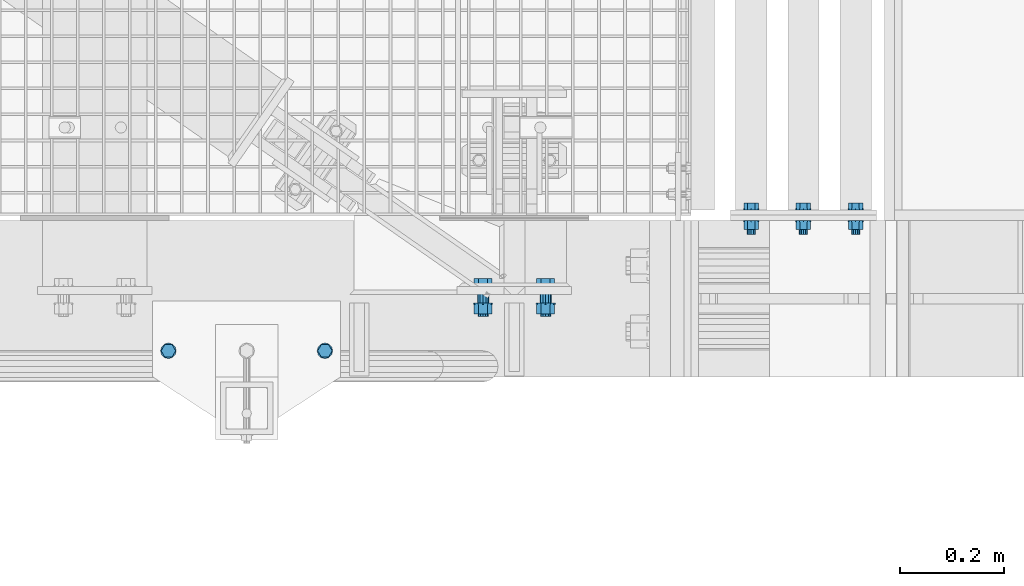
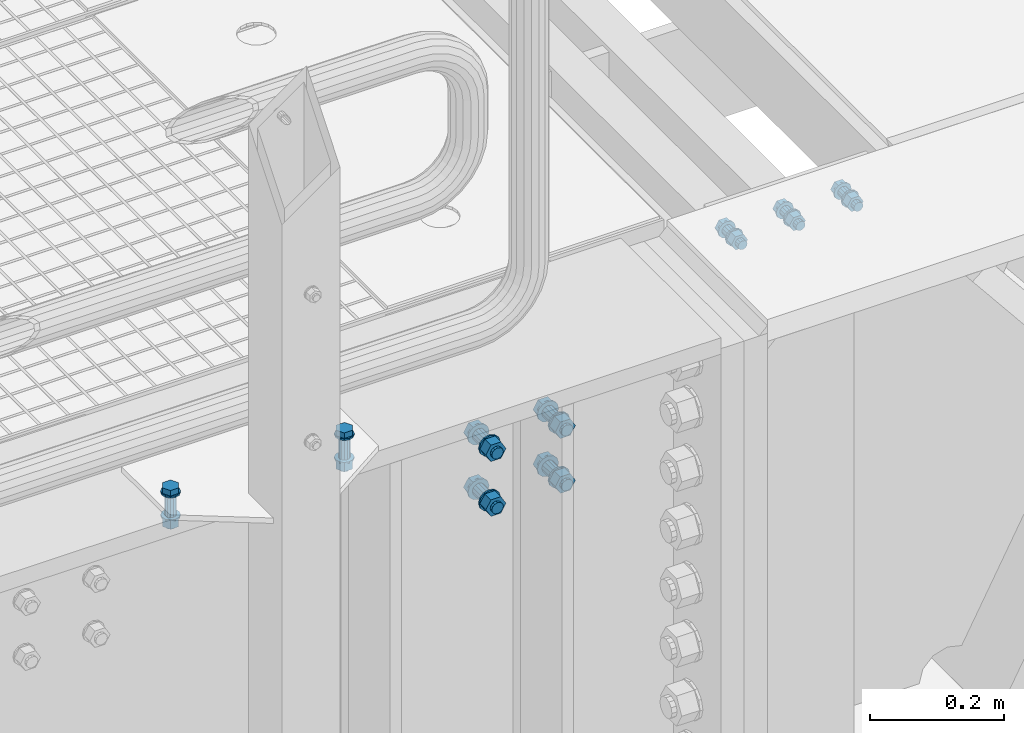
# One storey, part 51 of 1530: 3 mechanical fasteners.
"""IFC2X3 building model written with IfcOpenShell, lengths in millimetres."""

from ifc_helpers import new_model, si_unit, frame, origin_with_axes, place, context, subcontext, project, spatial, faceted_brep, source, transform, mapped, material, type_object, element, save


model = new_model("IFC2X3")

# Units and contexts
model_context = context("Model", 3, precision=1e-05, world=origin_with_axes())
body_context = subcontext(model_context, "Body", "Model", "MODEL_VIEW")
ifc_project = project(units=[si_unit("LENGTHUNIT", "METRE", prefix="MILLI"), si_unit("AREAUNIT", "SQUARE_METRE"), si_unit("VOLUMEUNIT", "CUBIC_METRE"), si_unit("MASSUNIT", "GRAM", prefix="KILO"), si_unit("TIMEUNIT", "SECOND"), si_unit("PLANEANGLEUNIT", "RADIAN"), si_unit("SOLIDANGLEUNIT", "STERADIAN"), si_unit("THERMODYNAMICTEMPERATUREUNIT", "DEGREE_CELSIUS"), si_unit("LUMINOUSINTENSITYUNIT", "LUMEN")], contexts=[model_context])

# Site, building, storey
site_placement = place(None, origin_with_axes())
site = spatial("IfcSite", under=ifc_project, at=site_placement, Name="Brattvåg", CompositionType="ELEMENT")
building_placement = place(site_placement, origin_with_axes())
building = spatial("IfcBuilding", under=site, at=building_placement, Name="Undefined", CompositionType="ELEMENT")
storey_placement = place(building_placement, origin_with_axes())
storey = spatial("IfcBuildingStorey", under=building, at=storey_placement, Name="Undefined", CompositionType="ELEMENT", Elevation=0.0)

# Mechanical fasteners
ifc_material = material(Name="8")
mechanical_fastener_type = type_object("IfcMechanicalFastenerType", Name="Bolt assembly")
shared_shape_1 = source(origin_with_axes(), body_context, "Body", "Brep", [
    faceted_brep([(13.856406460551, -13.0, 0.0), (6.92820323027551, -13.0, 12.0), (-6.92820323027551, -13.0, 12.0), (-13.856406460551, -13.0, 1.69692038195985e-15), (-6.92820323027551, -13.0, -12.0), (6.9282032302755, -13.0, -12.0), (6.9282032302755, -3.0, -12.0), (-6.92820323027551, -3.0, -12.0), (-13.856406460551, -3.0, 1.69692038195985e-15), (-6.92820323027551, -3.0, 12.0), (6.92820323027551, -3.0, 12.0), (13.856406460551, -3.0, 0.0), (8.0, -3.0, 0.0), (6.92820323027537, -3.0, 4.00000000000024), (3.99999999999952, -3.0, 6.92820323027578), (-8.29068785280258e-13, -3.0, 8.0), (-4.00000000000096, -3.0, 6.92820323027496), (-6.9282032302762, -3.0, 3.99999999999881), (-8.0, -3.0, -1.65813757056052e-12), (-6.92820323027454, -3.0, -4.00000000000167), (-3.99999999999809, -3.0, -6.92820323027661), (2.47832457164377e-12, -3.0, -8.0), (4.00000000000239, -3.0, -6.92820323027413), (6.92820323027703, -3.0, -3.99999999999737), (6.92820323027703, 47.0, -3.99999999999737), (4.00000000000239, 47.0, -6.92820323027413), (2.47832457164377e-12, 47.0, -8.0), (-3.99999999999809, 47.0, -6.92820323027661), (-6.92820323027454, 47.0, -4.00000000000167), (-8.0, 47.0, -1.65813757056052e-12), (-6.9282032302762, 47.0, 3.99999999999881), (-4.00000000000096, 47.0, 6.92820323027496), (-8.29068785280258e-13, 47.0, 8.0), (3.99999999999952, 47.0, 6.92820323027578), (6.92820323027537, 47.0, 4.00000000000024), (8.0, 47.0, 0.0), (15.0, -3.0, 0.0), (12.9903810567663, -3.0, 7.50000000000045), (7.4999999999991, -3.0, 12.9903810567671), (-1.55450397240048e-12, -3.0, 15.0), (-7.50000000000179, -3.0, 12.9903810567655), (-12.9903810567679, -3.0, 7.49999999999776), (-15.0, -3.0, -3.10900794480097e-12), (-12.9903810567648, -3.0, -7.50000000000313), (-7.49999999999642, -3.0, -12.9903810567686), (4.64685857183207e-12, -3.0, -15.0), (7.50000000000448, -3.0, -12.990381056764), (12.9903810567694, -3.0, -7.49999999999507), (12.9903810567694, 0.0, -7.49999999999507), (7.50000000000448, 0.0, -12.990381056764), (0.0, 0.0, -15.0), (-7.49999999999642, 0.0, -12.9903810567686), (-12.9903810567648, 0.0, -7.50000000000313), (-15.0, 0.0, -3.10900794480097e-12), (-12.9903810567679, 0.0, 7.49999999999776), (-7.50000000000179, 0.0, 12.9903810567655), (0.0, 0.0, 15.0), (7.4999999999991, 0.0, 12.9903810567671), (12.9903810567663, 0.0, 7.50000000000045), (15.0, 0.0, 0.0), (15.0, 20.0002288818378, 0.0), (12.9903810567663, 20.0002288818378, 7.50000000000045), (7.4999999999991, 20.0002288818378, 12.9903810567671), (-1.55450397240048e-12, 20.0002288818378, 15.0), (-7.50000000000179, 20.0002288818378, 12.9903810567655), (-12.9903810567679, 20.0002288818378, 7.49999999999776), (-15.0, 20.0002288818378, -3.10900794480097e-12), (-12.9903810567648, 20.0002288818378, -7.50000000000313), (-7.49999999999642, 20.0002288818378, -12.9903810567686), (4.64685857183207e-12, 20.0002288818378, -15.0), (7.50000000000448, 20.0002288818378, -12.990381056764), (12.9903810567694, 20.0002288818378, -7.49999999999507), (12.9903810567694, 23.0002288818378, -7.49999999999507), (7.50000000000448, 23.0002288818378, -12.990381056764), (4.64685857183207e-12, 23.0002288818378, -15.0), (-7.49999999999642, 23.0002288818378, -12.9903810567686), (-12.9903810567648, 23.0002288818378, -7.50000000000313), (-15.0, 23.0002288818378, -3.10900794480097e-12), (-12.9903810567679, 23.0002288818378, 7.49999999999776), (-7.50000000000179, 23.0002288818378, 12.9903810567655), (-1.55450397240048e-12, 23.0002288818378, 15.0), (7.4999999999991, 23.0002288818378, 12.9903810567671), (12.9903810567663, 23.0002288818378, 7.50000000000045), (15.0, 23.0002288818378, 0.0), (13.856406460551, 23.0002288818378, 0.0), (6.92820323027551, 23.0002288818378, 12.0), (-6.92820323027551, 23.0002288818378, 12.0), (-13.856406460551, 23.0002288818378, 1.69692038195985e-15), (-6.92820323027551, 23.0002288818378, -12.0), (6.9282032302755, 23.0002288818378, -12.0), (6.9282032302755, 37.8002290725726, -12.0), (-6.92820323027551, 37.8002290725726, -12.0), (-13.856406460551, 37.8002290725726, 1.69692038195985e-15), (-6.92820323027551, 37.8002290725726, 12.0), (6.92820323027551, 37.8002290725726, 12.0), (13.856406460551, 37.8002290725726, 0.0)], [[[0, 1, 2, 3, 4, 5]], [[6, 7, 8, 9, 10, 11]], [[0, 11, 10, 1]], [[1, 10, 9, 2]], [[2, 9, 8, 3]], [[3, 8, 7, 4]], [[4, 7, 6, 5]], [[5, 6, 11, 0]], [[12, 13, 14, 15, 16, 17, 18, 19, 20, 21, 22, 23]], [[24, 25, 26, 27, 28, 29, 30, 31, 32, 33, 34, 35]], [[12, 35, 34, 13]], [[13, 34, 33, 14]], [[14, 33, 32, 15]], [[15, 32, 31, 16]], [[16, 31, 30, 17]], [[17, 30, 29, 18]], [[18, 29, 28, 19]], [[19, 28, 27, 20]], [[20, 27, 26, 21]], [[21, 26, 25, 22]], [[22, 25, 24, 23]], [[23, 24, 35, 12]], [[36, 37, 38, 39, 40, 41, 42, 43, 44, 45, 46, 47]], [[48, 49, 50, 51, 52, 53, 54, 55, 56, 57, 58, 59]], [[36, 59, 58, 37]], [[37, 58, 57, 38]], [[38, 57, 56, 39]], [[39, 56, 55, 40]], [[40, 55, 54, 41]], [[41, 54, 53, 42]], [[42, 53, 52, 43]], [[43, 52, 51, 44]], [[44, 51, 50, 45]], [[45, 50, 49, 46]], [[46, 49, 48, 47]], [[47, 48, 59, 36]], [[60, 61, 62, 63, 64, 65, 66, 67, 68, 69, 70, 71]], [[72, 73, 74, 75, 76, 77, 78, 79, 80, 81, 82, 83]], [[60, 83, 82, 61]], [[61, 82, 81, 62]], [[62, 81, 80, 63]], [[63, 80, 79, 64]], [[64, 79, 78, 65]], [[65, 78, 77, 66]], [[66, 77, 76, 67]], [[67, 76, 75, 68]], [[68, 75, 74, 69]], [[69, 74, 73, 70]], [[70, 73, 72, 71]], [[71, 72, 83, 60]], [[84, 85, 86, 87, 88, 89]], [[90, 91, 92, 93, 94, 95]], [[84, 95, 94, 85]], [[85, 94, 93, 86]], [[86, 93, 92, 87]], [[87, 92, 91, 88]], [[88, 91, 90, 89]], [[89, 90, 95, 84]]]),
    faceted_brep([(9.0, 0.1, 0.0), (7.79422863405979, 0.1, 4.50000000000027), (4.49999999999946, 0.1, 7.79422863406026), (-9.3270238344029e-13, 0.1, 9.0), (-4.50000000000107, 0.1, 7.79422863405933), (-7.79422863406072, 0.1, 4.49999999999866), (-9.0, 0.1, -1.86540476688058e-12), (-7.79422863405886, 0.1, -4.50000000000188), (-4.49999999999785, 0.1, -7.79422863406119), (2.78811514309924e-12, 0.1, -9.0), (4.50000000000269, 0.1, -7.7942286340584), (7.79422863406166, 0.1, -4.49999999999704), (7.79422863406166, 10.1, -4.49999999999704), (4.50000000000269, 10.1, -7.7942286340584), (2.78811514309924e-12, 10.1, -9.0), (-4.49999999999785, 10.1, -7.79422863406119), (-7.79422863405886, 10.1, -4.50000000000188), (-9.0, 10.1, -1.86540476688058e-12), (-7.79422863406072, 10.1, 4.49999999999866), (-4.50000000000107, 10.1, 7.79422863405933), (-9.3270238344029e-13, 10.1, 9.0), (4.49999999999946, 10.1, 7.79422863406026), (7.79422863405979, 10.1, 4.50000000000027), (9.0, 10.1, 0.0), (9.0, 9.90022888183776, 0.0), (7.79422863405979, 9.90022888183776, 4.50000000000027), (4.49999999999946, 9.90022888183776, 7.79422863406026), (-9.3270238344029e-13, 9.90022888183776, 9.0), (-4.50000000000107, 9.90022888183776, 7.79422863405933), (-7.79422863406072, 9.90022888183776, 4.49999999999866), (-9.0, 9.90022888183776, -1.86540476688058e-12), (-7.79422863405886, 9.90022888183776, -4.50000000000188), (-4.49999999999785, 9.90022888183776, -7.79422863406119), (2.78811514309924e-12, 9.90022888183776, -9.0), (4.50000000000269, 9.90022888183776, -7.7942286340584), (7.79422863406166, 9.90022888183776, -4.49999999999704), (7.79422863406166, 20.0002288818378, -4.49999999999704), (4.50000000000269, 20.0002288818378, -7.7942286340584), (2.78811514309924e-12, 20.0002288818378, -9.0), (-4.49999999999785, 20.0002288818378, -7.79422863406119), (-7.79422863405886, 20.0002288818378, -4.50000000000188), (-9.0, 20.0002288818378, -1.86540476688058e-12), (-7.79422863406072, 20.0002288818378, 4.49999999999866), (-4.50000000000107, 20.0002288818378, 7.79422863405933), (-9.3270238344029e-13, 20.0002288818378, 9.0), (4.49999999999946, 20.0002288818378, 7.79422863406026), (7.79422863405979, 20.0002288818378, 4.50000000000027), (9.0, 20.0002288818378, 0.0)], [[[0, 1, 2, 3, 4, 5, 6, 7, 8, 9, 10, 11]], [[12, 13, 14, 15, 16, 17, 18, 19, 20, 21, 22, 23]], [[0, 23, 22, 1]], [[1, 22, 21, 2]], [[2, 21, 20, 3]], [[3, 20, 19, 4]], [[4, 19, 18, 5]], [[5, 18, 17, 6]], [[6, 17, 16, 7]], [[7, 16, 15, 8]], [[8, 15, 14, 9]], [[9, 14, 13, 10]], [[10, 13, 12, 11]], [[11, 12, 23, 0]], [[24, 25, 26, 27, 28, 29, 30, 31, 32, 33, 34, 35]], [[36, 37, 38, 39, 40, 41, 42, 43, 44, 45, 46, 47]], [[24, 47, 46, 25]], [[25, 46, 45, 26]], [[26, 45, 44, 27]], [[27, 44, 43, 28]], [[28, 43, 42, 29]], [[29, 42, 41, 30]], [[30, 41, 40, 31]], [[31, 40, 39, 32]], [[32, 39, 38, 33]], [[33, 38, 37, 34]], [[34, 37, 36, 35]], [[35, 36, 47, 24]]]),
])
mechanical_fastener_1_placement = place(storey_placement, frame((17011.9976854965, 169.999675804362, -65.0000373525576), z_axis=(0.0, 0.0, -1.0), x_axis=(1.0, 0.0, 0.0)))
element("IfcMechanicalFastener", 1, at=mechanical_fastener_1_placement, inside=storey, type_object=mechanical_fastener_type, material=ifc_material, Name="Bolt assembly", NominalDiameter=16.0, NominalLength=50.0, context=body_context, shape_type="MappedRepresentation", body=[
    mapped(shared_shape_1, transform((0.0, 0.0, 0.0))),
    mapped(shared_shape_1, transform((100.0, 0.0, 0.0))),
    mapped(shared_shape_1, transform((200.0, 0.0, 0.0))),
])
shared_shape_2 = source(origin_with_axes(), body_context, "Body", "Brep", [
    faceted_brep([(13.856406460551, -13.0, 0.0), (6.92820323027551, -13.0, 12.0), (-6.92820323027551, -13.0, 12.0), (-13.856406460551, -13.0, 1.69692038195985e-15), (-6.92820323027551, -13.0, -12.0), (6.9282032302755, -13.0, -12.0), (6.9282032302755, -3.0, -12.0), (-6.92820323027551, -3.0, -12.0), (-13.856406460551, -3.0, 1.69692038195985e-15), (-6.92820323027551, -3.0, 12.0), (6.92820323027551, -3.0, 12.0), (13.856406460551, -3.0, 0.0), (8.0, -3.0, 0.0), (6.92820323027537, -3.0, 4.00000000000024), (3.99999999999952, -3.0, 6.92820323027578), (-8.29068785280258e-13, -3.0, 8.0), (-4.00000000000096, -3.0, 6.92820323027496), (-6.9282032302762, -3.0, 3.99999999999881), (-8.0, -3.0, -1.65813757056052e-12), (-6.92820323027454, -3.0, -4.00000000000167), (-3.99999999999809, -3.0, -6.92820323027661), (2.47832457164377e-12, -3.0, -8.0), (4.00000000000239, -3.0, -6.92820323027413), (6.92820323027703, -3.0, -3.99999999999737), (6.92820323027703, 62.0000000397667, -3.99999999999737), (4.00000000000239, 62.0000000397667, -6.92820323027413), (2.47832457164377e-12, 62.0000000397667, -8.0), (-3.99999999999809, 62.0000000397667, -6.92820323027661), (-6.92820323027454, 62.0000000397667, -4.00000000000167), (-8.0, 62.0000000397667, -1.65813757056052e-12), (-6.9282032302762, 62.0000000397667, 3.99999999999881), (-4.00000000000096, 62.0000000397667, 6.92820323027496), (-8.29068785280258e-13, 62.0000000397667, 8.0), (3.99999999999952, 62.0000000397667, 6.92820323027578), (6.92820323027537, 62.0000000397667, 4.00000000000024), (8.0, 62.0000000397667, 0.0), (15.0, -3.0, 0.0), (12.9903810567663, -3.0, 7.50000000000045), (7.4999999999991, -3.0, 12.9903810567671), (-1.55450397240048e-12, -3.0, 15.0), (-7.50000000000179, -3.0, 12.9903810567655), (-12.9903810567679, -3.0, 7.49999999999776), (-15.0, -3.0, -3.10900794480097e-12), (-12.9903810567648, -3.0, -7.50000000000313), (-7.49999999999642, -3.0, -12.9903810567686), (4.64685857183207e-12, -3.0, -15.0), (7.50000000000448, -3.0, -12.990381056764), (12.9903810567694, -3.0, -7.49999999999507), (12.9903810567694, 0.0, -7.49999999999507), (7.50000000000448, 0.0, -12.990381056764), (0.0, 0.0, -15.0), (-7.49999999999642, 0.0, -12.9903810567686), (-12.9903810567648, 0.0, -7.50000000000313), (-15.0, 0.0, -3.10900794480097e-12), (-12.9903810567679, 0.0, 7.49999999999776), (-7.50000000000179, 0.0, 12.9903810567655), (0.0, 0.0, 15.0), (7.4999999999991, 0.0, 12.9903810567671), (12.9903810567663, 0.0, 7.50000000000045), (15.0, 0.0, 0.0), (15.0, 39.9997390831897, 0.0), (12.9903810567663, 39.9997390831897, 7.50000000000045), (7.4999999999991, 39.9997390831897, 12.9903810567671), (-1.55450397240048e-12, 39.9997390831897, 15.0), (-7.50000000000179, 39.9997390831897, 12.9903810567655), (-12.9903810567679, 39.9997390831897, 7.49999999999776), (-15.0, 39.9997390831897, -3.10900794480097e-12), (-12.9903810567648, 39.9997390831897, -7.50000000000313), (-7.49999999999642, 39.9997390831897, -12.9903810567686), (4.64685857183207e-12, 39.9997390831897, -15.0), (7.50000000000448, 39.9997390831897, -12.990381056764), (12.9903810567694, 39.9997390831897, -7.49999999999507), (12.9903810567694, 42.9997390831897, -7.49999999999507), (7.50000000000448, 42.9997390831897, -12.990381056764), (4.64685857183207e-12, 42.9997390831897, -15.0), (-7.49999999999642, 42.9997390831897, -12.9903810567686), (-12.9903810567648, 42.9997390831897, -7.50000000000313), (-15.0, 42.9997390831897, -3.10900794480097e-12), (-12.9903810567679, 42.9997390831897, 7.49999999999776), (-7.50000000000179, 42.9997390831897, 12.9903810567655), (-1.55450397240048e-12, 42.9997390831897, 15.0), (7.4999999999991, 42.9997390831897, 12.9903810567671), (12.9903810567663, 42.9997390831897, 7.50000000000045), (15.0, 42.9997390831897, 0.0), (13.856406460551, 42.9997390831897, 0.0), (6.92820323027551, 42.9997390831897, 12.0), (-6.92820323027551, 42.9997390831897, 12.0), (-13.856406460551, 42.9997390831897, 1.69692038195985e-15), (-6.92820323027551, 42.9997390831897, -12.0), (6.9282032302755, 42.9997390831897, -12.0), (6.9282032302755, 57.7997392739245, -12.0), (-6.92820323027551, 57.7997392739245, -12.0), (-13.856406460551, 57.7997392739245, 1.69692038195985e-15), (-6.92820323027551, 57.7997392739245, 12.0), (6.92820323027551, 57.7997392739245, 12.0), (13.856406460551, 57.7997392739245, 0.0)], [[[0, 1, 2, 3, 4, 5]], [[6, 7, 8, 9, 10, 11]], [[0, 11, 10, 1]], [[1, 10, 9, 2]], [[2, 9, 8, 3]], [[3, 8, 7, 4]], [[4, 7, 6, 5]], [[5, 6, 11, 0]], [[12, 13, 14, 15, 16, 17, 18, 19, 20, 21, 22, 23]], [[24, 25, 26, 27, 28, 29, 30, 31, 32, 33, 34, 35]], [[12, 35, 34, 13]], [[13, 34, 33, 14]], [[14, 33, 32, 15]], [[15, 32, 31, 16]], [[16, 31, 30, 17]], [[17, 30, 29, 18]], [[18, 29, 28, 19]], [[19, 28, 27, 20]], [[20, 27, 26, 21]], [[21, 26, 25, 22]], [[22, 25, 24, 23]], [[23, 24, 35, 12]], [[36, 37, 38, 39, 40, 41, 42, 43, 44, 45, 46, 47]], [[48, 49, 50, 51, 52, 53, 54, 55, 56, 57, 58, 59]], [[36, 59, 58, 37]], [[37, 58, 57, 38]], [[38, 57, 56, 39]], [[39, 56, 55, 40]], [[40, 55, 54, 41]], [[41, 54, 53, 42]], [[42, 53, 52, 43]], [[43, 52, 51, 44]], [[44, 51, 50, 45]], [[45, 50, 49, 46]], [[46, 49, 48, 47]], [[47, 48, 59, 36]], [[60, 61, 62, 63, 64, 65, 66, 67, 68, 69, 70, 71]], [[72, 73, 74, 75, 76, 77, 78, 79, 80, 81, 82, 83]], [[60, 83, 82, 61]], [[61, 82, 81, 62]], [[62, 81, 80, 63]], [[63, 80, 79, 64]], [[64, 79, 78, 65]], [[65, 78, 77, 66]], [[66, 77, 76, 67]], [[67, 76, 75, 68]], [[68, 75, 74, 69]], [[69, 74, 73, 70]], [[70, 73, 72, 71]], [[71, 72, 83, 60]], [[84, 85, 86, 87, 88, 89]], [[90, 91, 92, 93, 94, 95]], [[84, 95, 94, 85]], [[85, 94, 93, 86]], [[86, 93, 92, 87]], [[87, 92, 91, 88]], [[88, 91, 90, 89]], [[89, 90, 95, 84]]]),
    faceted_brep([(9.0, 0.1, 0.0), (7.79422863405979, 0.1, 4.50000000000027), (4.49999999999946, 0.1, 7.79422863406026), (-9.3270238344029e-13, 0.1, 9.0), (-4.50000000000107, 0.1, 7.79422863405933), (-7.79422863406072, 0.1, 4.49999999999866), (-9.0, 0.1, -1.86540476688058e-12), (-7.79422863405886, 0.1, -4.50000000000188), (-4.49999999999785, 0.1, -7.79422863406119), (2.78811514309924e-12, 0.1, -9.0), (4.50000000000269, 0.1, -7.7942286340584), (7.79422863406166, 0.1, -4.49999999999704), (7.79422863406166, 10.1, -4.49999999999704), (4.50000000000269, 10.1, -7.7942286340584), (2.78811514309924e-12, 10.1, -9.0), (-4.49999999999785, 10.1, -7.79422863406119), (-7.79422863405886, 10.1, -4.50000000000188), (-9.0, 10.1, -1.86540476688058e-12), (-7.79422863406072, 10.1, 4.49999999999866), (-4.50000000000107, 10.1, 7.79422863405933), (-9.3270238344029e-13, 10.1, 9.0), (4.49999999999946, 10.1, 7.79422863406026), (7.79422863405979, 10.1, 4.50000000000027), (9.0, 10.1, 0.0), (9.0, 9.8997390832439, 0.0), (7.79422863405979, 9.8997390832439, 4.50000000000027), (4.49999999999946, 9.8997390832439, 7.79422863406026), (-9.3270238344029e-13, 9.8997390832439, 9.0), (-4.50000000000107, 9.8997390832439, 7.79422863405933), (-7.79422863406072, 9.8997390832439, 4.49999999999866), (-9.0, 9.8997390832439, -1.86540476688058e-12), (-7.79422863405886, 9.8997390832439, -4.50000000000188), (-4.49999999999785, 9.8997390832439, -7.79422863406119), (2.78811514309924e-12, 9.8997390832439, -9.0), (4.50000000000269, 9.8997390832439, -7.7942286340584), (7.79422863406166, 9.8997390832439, -4.49999999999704), (7.79422863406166, 39.9997390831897, -4.49999999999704), (4.50000000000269, 39.9997390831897, -7.7942286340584), (2.78811514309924e-12, 39.9997390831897, -9.0), (-4.49999999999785, 39.9997390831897, -7.79422863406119), (-7.79422863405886, 39.9997390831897, -4.50000000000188), (-9.0, 39.9997390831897, -1.86540476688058e-12), (-7.79422863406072, 39.9997390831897, 4.49999999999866), (-4.50000000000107, 39.9997390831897, 7.79422863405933), (-9.3270238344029e-13, 39.9997390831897, 9.0), (4.49999999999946, 39.9997390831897, 7.79422863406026), (7.79422863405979, 39.9997390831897, 4.50000000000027), (9.0, 39.9997390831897, 0.0)], [[[0, 1, 2, 3, 4, 5, 6, 7, 8, 9, 10, 11]], [[12, 13, 14, 15, 16, 17, 18, 19, 20, 21, 22, 23]], [[0, 23, 22, 1]], [[1, 22, 21, 2]], [[2, 21, 20, 3]], [[3, 20, 19, 4]], [[4, 19, 18, 5]], [[5, 18, 17, 6]], [[6, 17, 16, 7]], [[7, 16, 15, 8]], [[8, 15, 14, 9]], [[9, 14, 13, 10]], [[10, 13, 12, 11]], [[11, 12, 23, 0]], [[24, 25, 26, 27, 28, 29, 30, 31, 32, 33, 34, 35]], [[36, 37, 38, 39, 40, 41, 42, 43, 44, 45, 46, 47]], [[24, 47, 46, 25]], [[25, 46, 45, 26]], [[26, 45, 44, 27]], [[27, 44, 43, 28]], [[28, 43, 42, 29]], [[29, 42, 41, 30]], [[30, 41, 40, 31]], [[31, 40, 39, 32]], [[32, 39, 38, 33]], [[33, 38, 37, 34]], [[34, 37, 36, 35]], [[35, 36, 47, 24]]]),
])
mechanical_fastener_2_placement = place(storey_placement, frame((15895.0008086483, -99.9996071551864, 9.99973908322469), z_axis=(0.0, 1.0, 0.0), x_axis=(1.0, 0.0, 0.0)))
element("IfcMechanicalFastener", 2, at=mechanical_fastener_2_placement, inside=storey, type_object=mechanical_fastener_type, material=ifc_material, Name="Bolt assembly", NominalDiameter=16.0, NominalLength=65.0, context=body_context, shape_type="MappedRepresentation", body=[
    mapped(shared_shape_2, transform((0.0, 0.0, 0.0))),
    mapped(shared_shape_2, transform((300.0, 0.0, 0.0))),
])
shared_shape_3 = source(origin_with_axes(), body_context, "Body", "Brep", [
    faceted_brep([(17.3205080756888, -15.5000000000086, 0.0), (8.66025403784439, -15.5000000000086, 15.0), (-8.66025403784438, -15.5000000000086, 15.0), (-17.3205080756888, -15.5000000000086, 2.12115047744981e-15), (-8.66025403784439, -15.5000000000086, -15.0), (8.66025403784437, -15.5000000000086, -15.0), (8.66025403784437, -3.00000000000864, -15.0), (-8.66025403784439, -3.00000000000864, -15.0), (-17.3205080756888, -3.00000000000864, 2.12115047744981e-15), (-8.66025403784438, -3.00000000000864, 15.0), (8.66025403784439, -3.00000000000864, 15.0), (17.3205080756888, -3.00000000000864, 0.0), (10.0, -3.00000000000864, 0.0), (8.66025403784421, -3.00000000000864, 5.0000000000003), (4.9999999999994, -3.00000000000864, 8.66025403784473), (-1.03633598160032e-12, -3.00000000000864, 10.0), (-5.00000000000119, -3.00000000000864, 8.6602540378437), (-8.66025403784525, -3.00000000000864, 4.99999999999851), (-10.0, -3.00000000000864, -2.07267196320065e-12), (-8.66025403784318, -3.00000000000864, -5.00000000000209), (-4.99999999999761, -3.00000000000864, -8.66025403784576), (3.09790571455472e-12, -3.00000000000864, -10.0), (5.00000000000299, -3.00000000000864, -8.66025403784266), (8.66025403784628, -3.00000000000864, -4.99999999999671), (8.66025403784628, 57.0, -4.99999999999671), (5.00000000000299, 57.0, -8.66025403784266), (3.09790571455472e-12, 57.0, -10.0), (-4.99999999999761, 57.0, -8.66025403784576), (-8.66025403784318, 57.0, -5.00000000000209), (-10.0, 57.0, -2.07267196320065e-12), (-8.66025403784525, 57.0, 4.99999999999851), (-5.00000000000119, 57.0, 8.6602540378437), (-1.03633598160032e-12, 57.0, 10.0), (4.9999999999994, 57.0, 8.66025403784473), (8.66025403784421, 57.0, 5.0000000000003), (10.0, 57.0, 0.0), (18.5, -3.00000000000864, 0.0), (16.0214699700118, -3.00000000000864, 9.25000000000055), (9.2499999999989, -3.00000000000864, 16.0214699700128), (-1.9172215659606e-12, -3.00000000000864, 18.5), (-9.25000000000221, -3.00000000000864, 16.0214699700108), (-16.0214699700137, -3.00000000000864, 9.24999999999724), (-18.5, -3.00000000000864, -3.83444313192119e-12), (-16.0214699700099, -3.00000000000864, -9.25000000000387), (-9.24999999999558, -3.00000000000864, -16.0214699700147), (5.73112557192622e-12, -3.00000000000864, -18.5), (9.25000000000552, -3.00000000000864, -16.0214699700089), (16.0214699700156, -3.00000000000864, -9.24999999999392), (16.0214699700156, -8.64019966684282e-12, -9.24999999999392), (9.25000000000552, -8.64019966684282e-12, -16.0214699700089), (5.73112557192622e-12, -8.64019966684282e-12, -18.5), (-9.24999999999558, -8.64019966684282e-12, -16.0214699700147), (-16.0214699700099, -8.64019966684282e-12, -9.25000000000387), (-18.5, -8.64019966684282e-12, -3.83444313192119e-12), (-16.0214699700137, -8.64019966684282e-12, 9.24999999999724), (-9.25000000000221, -8.64019966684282e-12, 16.0214699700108), (-1.9172215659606e-12, -8.64019966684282e-12, 18.5), (9.2499999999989, -8.64019966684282e-12, 16.0214699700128), (16.0214699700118, -8.64019966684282e-12, 9.25000000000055), (18.5, -8.64019966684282e-12, 0.0), (18.5, 31.0015563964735, 0.0), (16.0214699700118, 31.0015563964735, 9.25000000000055), (9.2499999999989, 31.0015563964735, 16.0214699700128), (-1.9172215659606e-12, 31.0015563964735, 18.5), (-9.25000000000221, 31.0015563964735, 16.0214699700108), (-16.0214699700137, 31.0015563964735, 9.24999999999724), (-18.5, 31.0015563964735, -3.83444313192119e-12), (-16.0214699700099, 31.0015563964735, -9.25000000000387), (-9.24999999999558, 31.0015563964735, -16.0214699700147), (5.73112557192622e-12, 31.0015563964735, -18.5), (9.25000000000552, 31.0015563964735, -16.0214699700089), (16.0214699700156, 31.0015563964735, -9.24999999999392), (16.0214699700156, 34.0015563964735, -9.24999999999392), (9.25000000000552, 34.0015563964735, -16.0214699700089), (5.73112557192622e-12, 34.0015563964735, -18.5), (-9.24999999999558, 34.0015563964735, -16.0214699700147), (-16.0214699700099, 34.0015563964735, -9.25000000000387), (-18.5, 34.0015563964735, -3.83444313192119e-12), (-16.0214699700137, 34.0015563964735, 9.24999999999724), (-9.25000000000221, 34.0015563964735, 16.0214699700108), (-1.9172215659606e-12, 34.0015563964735, 18.5), (9.2499999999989, 34.0015563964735, 16.0214699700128), (16.0214699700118, 34.0015563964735, 9.25000000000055), (18.5, 34.0015563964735, 0.0), (17.3205080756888, 34.0015563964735, 0.0), (8.66025403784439, 34.0015563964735, 15.0), (-8.66025403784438, 34.0015563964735, 15.0), (-17.3205080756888, 34.0015563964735, 2.12115047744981e-15), (-8.66025403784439, 34.0015563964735, -15.0), (8.66025403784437, 34.0015563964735, -15.0), (8.66025403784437, 52.0015563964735, -15.0), (-8.66025403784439, 52.0015563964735, -15.0), (-17.3205080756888, 52.0015563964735, 2.12115047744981e-15), (-8.66025403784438, 52.0015563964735, 15.0), (8.66025403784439, 52.0015563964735, 15.0), (17.3205080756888, 52.0015563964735, 0.0)], [[[0, 1, 2, 3, 4, 5]], [[6, 7, 8, 9, 10, 11]], [[0, 11, 10, 1]], [[1, 10, 9, 2]], [[2, 9, 8, 3]], [[3, 8, 7, 4]], [[4, 7, 6, 5]], [[5, 6, 11, 0]], [[12, 13, 14, 15, 16, 17, 18, 19, 20, 21, 22, 23]], [[24, 25, 26, 27, 28, 29, 30, 31, 32, 33, 34, 35]], [[12, 35, 34, 13]], [[13, 34, 33, 14]], [[14, 33, 32, 15]], [[15, 32, 31, 16]], [[16, 31, 30, 17]], [[17, 30, 29, 18]], [[18, 29, 28, 19]], [[19, 28, 27, 20]], [[20, 27, 26, 21]], [[21, 26, 25, 22]], [[22, 25, 24, 23]], [[23, 24, 35, 12]], [[36, 37, 38, 39, 40, 41, 42, 43, 44, 45, 46, 47]], [[48, 49, 50, 51, 52, 53, 54, 55, 56, 57, 58, 59]], [[36, 59, 58, 37]], [[37, 58, 57, 38]], [[38, 57, 56, 39]], [[39, 56, 55, 40]], [[40, 55, 54, 41]], [[41, 54, 53, 42]], [[42, 53, 52, 43]], [[43, 52, 51, 44]], [[44, 51, 50, 45]], [[45, 50, 49, 46]], [[46, 49, 48, 47]], [[47, 48, 59, 36]], [[60, 61, 62, 63, 64, 65, 66, 67, 68, 69, 70, 71]], [[72, 73, 74, 75, 76, 77, 78, 79, 80, 81, 82, 83]], [[60, 83, 82, 61]], [[61, 82, 81, 62]], [[62, 81, 80, 63]], [[63, 80, 79, 64]], [[64, 79, 78, 65]], [[65, 78, 77, 66]], [[66, 77, 76, 67]], [[67, 76, 75, 68]], [[68, 75, 74, 69]], [[69, 74, 73, 70]], [[70, 73, 72, 71]], [[71, 72, 83, 60]], [[84, 85, 86, 87, 88, 89]], [[90, 91, 92, 93, 94, 95]], [[84, 95, 94, 85]], [[85, 94, 93, 86]], [[86, 93, 92, 87]], [[87, 92, 91, 88]], [[88, 91, 90, 89]], [[89, 90, 95, 84]]]),
    faceted_brep([(11.0, 0.1, 0.0), (9.52627944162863, 0.1, 5.50000000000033), (5.49999999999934, 0.1, 9.5262794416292), (-1.13996957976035e-12, 0.1, 11.0), (-5.50000000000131, 0.1, 9.52627944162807), (-9.52627944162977, 0.1, 5.49999999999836), (-11.0, 0.1, -2.27993915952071e-12), (-9.5262794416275, 0.1, -5.5000000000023), (-5.49999999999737, 0.1, -9.52627944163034), (3.40769628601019e-12, 0.1, -11.0), (5.50000000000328, 0.1, -9.52627944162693), (9.52627944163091, 0.1, -5.49999999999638), (9.52627944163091, 15.1, -5.49999999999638), (5.50000000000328, 15.1, -9.52627944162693), (3.40769628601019e-12, 15.1, -11.0), (-5.49999999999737, 15.1, -9.52627944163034), (-9.5262794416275, 15.1, -5.5000000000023), (-11.0, 15.1, -2.27993915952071e-12), (-9.52627944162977, 15.1, 5.49999999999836), (-5.50000000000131, 15.1, 9.52627944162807), (-1.13996957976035e-12, 15.1, 11.0), (5.49999999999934, 15.1, 9.5262794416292), (9.52627944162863, 15.1, 5.50000000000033), (11.0, 15.1, 0.0), (11.0, 14.9015563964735, 0.0), (9.52627944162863, 14.9015563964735, 5.50000000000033), (5.49999999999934, 14.9015563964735, 9.5262794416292), (-1.13996957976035e-12, 14.9015563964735, 11.0), (-5.50000000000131, 14.9015563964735, 9.52627944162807), (-9.52627944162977, 14.9015563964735, 5.49999999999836), (-11.0, 14.9015563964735, -2.27993915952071e-12), (-9.5262794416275, 14.9015563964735, -5.5000000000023), (-5.49999999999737, 14.9015563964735, -9.52627944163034), (3.40769628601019e-12, 14.9015563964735, -11.0), (5.50000000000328, 14.9015563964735, -9.52627944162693), (9.52627944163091, 14.9015563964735, -5.49999999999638), (9.52627944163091, 31.0015563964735, -5.49999999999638), (5.50000000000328, 31.0015563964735, -9.52627944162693), (3.40769628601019e-12, 31.0015563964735, -11.0), (-5.49999999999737, 31.0015563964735, -9.52627944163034), (-9.5262794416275, 31.0015563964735, -5.5000000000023), (-11.0, 31.0015563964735, -2.27993915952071e-12), (-9.52627944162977, 31.0015563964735, 5.49999999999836), (-5.50000000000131, 31.0015563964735, 9.52627944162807), (-1.13996957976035e-12, 31.0015563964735, 11.0), (5.49999999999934, 31.0015563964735, 9.5262794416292), (9.52627944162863, 31.0015563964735, 5.50000000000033), (11.0, 31.0015563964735, 0.0)], [[[0, 1, 2, 3, 4, 5, 6, 7, 8, 9, 10, 11]], [[12, 13, 14, 15, 16, 17, 18, 19, 20, 21, 22, 23]], [[0, 23, 22, 1]], [[1, 22, 21, 2]], [[2, 21, 20, 3]], [[3, 20, 19, 4]], [[4, 19, 18, 5]], [[5, 18, 17, 6]], [[6, 17, 16, 7]], [[7, 16, 15, 8]], [[8, 15, 14, 9]], [[9, 14, 13, 10]], [[10, 13, 12, 11]], [[11, 12, 23, 0]], [[24, 25, 26, 27, 28, 29, 30, 31, 32, 33, 34, 35]], [[36, 37, 38, 39, 40, 41, 42, 43, 44, 45, 46, 47]], [[24, 47, 46, 25]], [[25, 46, 45, 26]], [[26, 45, 44, 27]], [[27, 44, 43, 28]], [[28, 43, 42, 29]], [[29, 42, 41, 30]], [[30, 41, 40, 31]], [[31, 40, 39, 32]], [[32, 39, 38, 33]], [[33, 38, 37, 34]], [[34, 37, 36, 35]], [[35, 36, 47, 24]]]),
])
mechanical_fastener_3_placement = place(storey_placement, frame((16618.0019683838, 23.0015563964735, -219.998836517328), z_axis=(0.0, 0.0, 1.0), x_axis=(-1.0, 1.99999855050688e-09, 0.0)))
element("IfcMechanicalFastener", 3, at=mechanical_fastener_3_placement, inside=storey, type_object=mechanical_fastener_type, material=ifc_material, Name="Bolt assembly", NominalDiameter=20.0, NominalLength=60.0, context=body_context, shape_type="MappedRepresentation", body=[
    mapped(shared_shape_3, transform((0.0, 0.0, -50.0))),
    mapped(shared_shape_3, transform((120.0, 0.0, -50.0))),
    mapped(shared_shape_3, transform((0.0, 0.0, 50.0))),
    mapped(shared_shape_3, transform((120.0, 0.0, 50.0))),
])

save(model, "model.ifc")
